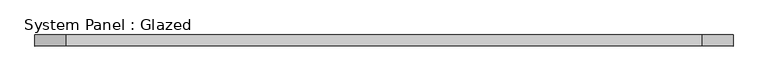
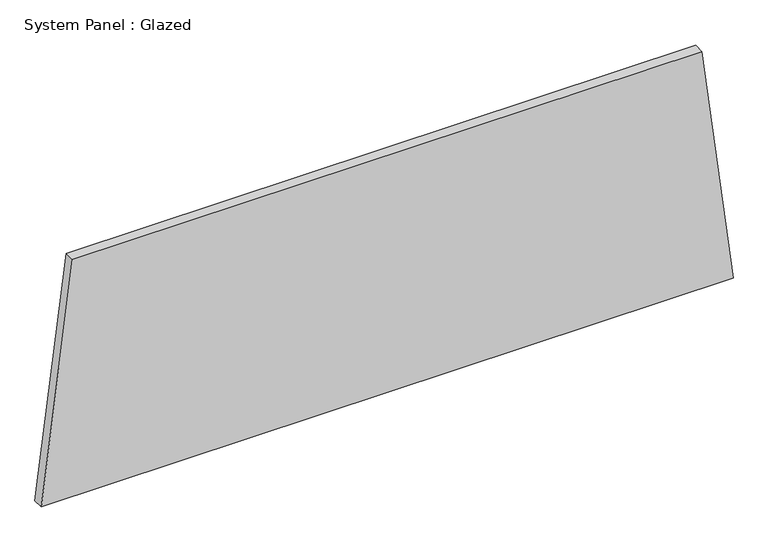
"""IFC4 building model written with IfcOpenShell, lengths in millimetres: plate geometry, System Panel : Glazed."""

import ifcopenshell
import ifcopenshell.guid

model = None  # the IFC model being written
_history = None  # IfcOwnerHistory: only IFC2X3 demands one
_inside = {}  # id of a spatial element -> (the spatial element, [elements in it])
_under = {}  # id of a project, library or spatial element -> (it, [spatial elements below it])
_declared = {}  # id of a project -> (the project, [libraries it declares])
_typed = {}  # id of a type object -> (the type object, [elements of that type])
_made_of = {}  # id of a material, layer set ... -> (it, [elements and type objects made of it])


def new_model(schema):
    """Start an empty IFC model of exactly this schema.

    Asked for "IFC4X3", IfcOpenShell would pick the latest addendum, in which some entities
    have other attributes; the version numbers below select the first issue.
    IFC2X3 requires an IfcOwnerHistory on every rooted entity: one is made here for all.
    """
    global model, _history
    if schema == "IFC4X3":
        model = ifcopenshell.file(schema_version=(4, 3, 0, 0))
    else:
        model = ifcopenshell.file(schema=schema)
    _inside.clear()
    _under.clear()
    _declared.clear()
    _typed.clear()
    _made_of.clear()
    _history = None
    if model.schema == "IFC2X3":
        org = make("IfcOrganization", Name="unknown")
        user = make(
            "IfcPersonAndOrganization",
            ThePerson=make("IfcPerson", FamilyName="unknown"),
            TheOrganization=org,
        )
        app = make(
            "IfcApplication",
            ApplicationDeveloper=org,
            Version="unknown",
            ApplicationFullName="unknown",
            ApplicationIdentifier="unknown",
        )
        _history = make(
            "IfcOwnerHistory",
            OwningUser=user,
            OwningApplication=app,
            ChangeAction="ADDED",
            CreationDate=0,
        )
    return model


def make(cls, **values):
    """One entity of the class cls with the attributes given. An attribute that is None is left unset."""
    return model.create_entity(
        cls, **{name: value for name, value in values.items() if value is not None}
    )


def rooted(cls, **values):
    """An entity with a GlobalId (a new one), such as an element, a storey or a relation."""
    return make(cls, GlobalId=ifcopenshell.guid.new(), OwnerHistory=_history, **values)


def si_unit(unit_type, name, prefix=None):
    """IfcSIUnit, for example si_unit("LENGTHUNIT", "METRE", prefix="MILLI")."""
    return make("IfcSIUnit", UnitType=unit_type, Prefix=prefix, Name=name)


def assignment(units):
    """IfcUnitAssignment: the units of a project."""
    return None if units is None else make("IfcUnitAssignment", Units=units)


def point(xyz):
    """IfcCartesianPoint."""
    return None if xyz is None else make("IfcCartesianPoint", Coordinates=xyz)


def direction(xyz):
    """IfcDirection."""
    return None if xyz is None else make("IfcDirection", DirectionRatios=xyz)


def frame(location, z_axis=None, x_axis=None):
    """IfcAxis2Placement3D, a coordinate frame: its origin and axes. An axis left out is left unset."""
    return make(
        "IfcAxis2Placement3D",
        Location=point(location),
        Axis=direction(z_axis),
        RefDirection=direction(x_axis),
    )


def origin():
    """The frame at (0, 0, 0) with its axes left unset."""
    return frame((0.0, 0.0, 0.0))


def place(relative_to, where):
    """IfcLocalPlacement: puts the frame where relative to a parent placement (None: the world)."""
    return make(
        "IfcLocalPlacement", PlacementRelTo=relative_to, RelativePlacement=where
    )


def context(
    kind, dimensions, precision=None, world=None, true_north=None, identifier=None
):
    """IfcGeometricRepresentationContext, for example the 3D "Model" context."""
    return make(
        "IfcGeometricRepresentationContext",
        ContextIdentifier=identifier,
        ContextType=kind,
        CoordinateSpaceDimension=dimensions,
        Precision=precision,
        WorldCoordinateSystem=world,
        TrueNorth=true_north,
    )


def project(units=None, contexts=None):
    """IfcProject with its units and contexts."""
    return rooted(
        "IfcProject",
        Name="project",
        RepresentationContexts=contexts,
        UnitsInContext=assignment(units),
    )


def spatial(cls, under=None, at=None, **own):
    """A site, building, storey or space (cls), placed at a placement, below another one or the project."""
    s = rooted(cls, ObjectPlacement=at, **own)
    if under is not None:
        _under.setdefault(under.id(), (under, []))[1].append(s)
    return s


def polyline(points):
    """IfcPolyline through the points."""
    return make("IfcPolyline", Points=[point(p) for p in points])


def outline(outer, holes=None, kind="AREA"):
    """IfcArbitraryClosedProfileDef: a profile drawn as a closed curve; with holes, ...WithVoids."""
    if holes is None:
        return make("IfcArbitraryClosedProfileDef", ProfileType=kind, OuterCurve=outer)
    return make(
        "IfcArbitraryProfileDefWithVoids",
        ProfileType=kind,
        OuterCurve=outer,
        InnerCurves=holes,
    )


def extrude(swept, where, along, depth):
    """IfcExtrudedAreaSolid: the profile swept, set in the frame where, extruded along a direction by depth."""
    return make(
        "IfcExtrudedAreaSolid",
        SweptArea=swept,
        Position=where,
        ExtrudedDirection=direction(along),
        Depth=depth,
    )


def shape(context_of_items, identifier, shape_type, items):
    """IfcShapeRepresentation: the items that make up one representation, for example the "Body"."""
    return make(
        "IfcShapeRepresentation",
        ContextOfItems=context_of_items,
        RepresentationIdentifier=identifier,
        RepresentationType=shape_type,
        Items=items,
    )


def source(mapping_origin, context_of_items, identifier, shape_type, items):
    """IfcRepresentationMap: a shape defined once, which mapped items show again and again."""
    return make(
        "IfcRepresentationMap",
        MappingOrigin=mapping_origin,
        MappedRepresentation=shape(context_of_items, identifier, shape_type, items),
    )


def transform(
    local_origin,
    x_axis=None,
    y_axis=None,
    z_axis=None,
    scale=None,
    scale2=None,
    scale3=None,
    uniform=True,
):
    """IfcCartesianTransformationOperator3D, or its non-uniform kind. x_axis, y_axis, z_axis: its Axis1, 2, 3."""
    if uniform:
        return make(
            "IfcCartesianTransformationOperator3D",
            Axis1=direction(x_axis),
            Axis2=direction(y_axis),
            LocalOrigin=point(local_origin),
            Scale=scale,
            Axis3=direction(z_axis),
        )
    return make(
        "IfcCartesianTransformationOperator3DnonUniform",
        Axis1=direction(x_axis),
        Axis2=direction(y_axis),
        LocalOrigin=point(local_origin),
        Scale=scale,
        Axis3=direction(z_axis),
        Scale2=scale2,
        Scale3=scale3,
    )


def mapped(mapping_source, mapping_target):
    """IfcMappedItem: shows the shape of a source again, moved by a transform."""
    return make(
        "IfcMappedItem", MappingSource=mapping_source, MappingTarget=mapping_target
    )


def made_of(thing, what):
    """Note that an element or type object is made of a material, layer set ...; save() writes the relation."""
    if what is not None:
        _made_of.setdefault(what.id(), (what, []))[1].append(thing)
    return thing


def element(
    cls,
    number,
    at=None,
    inside=None,
    cuts=None,
    type_object=None,
    material=None,
    context=None,
    identifier="Body",
    shape_type=None,
    held_by="IfcProductDefinitionShape",
    body=None,
    shapes=None,
    **own,
):
    """One element of the class cls, such as IfcWall. Its Tag is "e" and its number.

    at: its placement. inside: the storey or other place that contains it. cuts: it is an
    opening in that element (IfcRelVoidsElement). A single representation is given by context,
    identifier, shape_type and body (its items); several are given by shapes. held_by: the class
    of the entity that holds the representations. save() writes the other relations.
    """
    e = rooted(cls, Tag="e%d" % number, ObjectPlacement=at, **own)
    if body is not None:
        shapes = [shape(context, identifier, shape_type, body)]
    if shapes is not None:
        e.Representation = make(held_by, Representations=shapes)
    if inside is not None:
        _inside.setdefault(inside.id(), (inside, []))[1].append(e)
    if cuts is not None:
        rooted(
            "IfcRelVoidsElement", RelatingBuildingElement=cuts, RelatedOpeningElement=e
        )
    if type_object is not None:
        _typed.setdefault(type_object.id(), (type_object, []))[1].append(e)
    return made_of(e, material)


def aggregate(whole, parts):
    """IfcRelAggregates: a whole, such as a stair, and the parts it consists of."""
    return rooted("IfcRelAggregates", RelatingObject=whole, RelatedObjects=parts)


def save(model, path):
    """Write the relations noted so far, then the file.

    IfcRelAggregates (storeys below a building ...), IfcRelContainedInSpatialStructure (elements
    in a storey), IfcRelDefinesByType, IfcRelAssociatesMaterial and IfcRelDeclares: one each for
    every whole, place, type object, material and project.
    """
    for whole, parts in _under.values():
        aggregate(whole, parts)
    for where, things in _inside.values():
        rooted(
            "IfcRelContainedInSpatialStructure",
            RelatedElements=things,
            RelatingStructure=where,
        )
    for kind, things in _typed.values():
        rooted("IfcRelDefinesByType", RelatedObjects=things, RelatingType=kind)
    for what, things in _made_of.values():
        rooted("IfcRelAssociatesMaterial", RelatedObjects=things, RelatingMaterial=what)
    for by, libraries in _declared.values():
        rooted("IfcRelDeclares", RelatingContext=by, RelatedDefinitions=libraries)
    model.write(path)


def system_panel_glazed_7bf4cd1b(model_context):
    return source(origin(), model_context, "Body", "SweptSolid", [
        extrude(outline(polyline([(0.0, -800.0613879), (0.0, 800.0613879), (579.5391204, 727.9820512), (579.5391204, -727.9820512), (0.0, -800.0613879)])), frame((0.0, 19.05, 0.0), z_axis=(0.0, 1.0, 0.0), x_axis=(0.0, 0.0, 1.0)), (0.0, 0.0, 1.0), 25.4),
    ])


if __name__ == "__main__":
    model = new_model("IFC4")
    model_context = context("Model", 3, world=origin())
    ifc_project = project(units=[si_unit("LENGTHUNIT", "METRE", prefix="MILLI")], contexts=[model_context])
    site = spatial("IfcSite", under=ifc_project)
    building = spatial("IfcBuilding", under=site)
    placement = place(None, origin())
    system_panel_glazed_shape = system_panel_glazed_7bf4cd1b(model_context)
    element("IfcPlate", 1, ObjectType="System Panel : Glazed", at=placement, inside=building, context=model_context, shape_type="MappedRepresentation", body=[
        mapped(system_panel_glazed_shape, transform((0.0, 0.0, 0.0), x_axis=(1.0, 0.0, 0.0), y_axis=(0.0, 1.0, 0.0), z_axis=(0.0, 0.0, 1.0))),
    ])
    save(model, "model.ifc")
